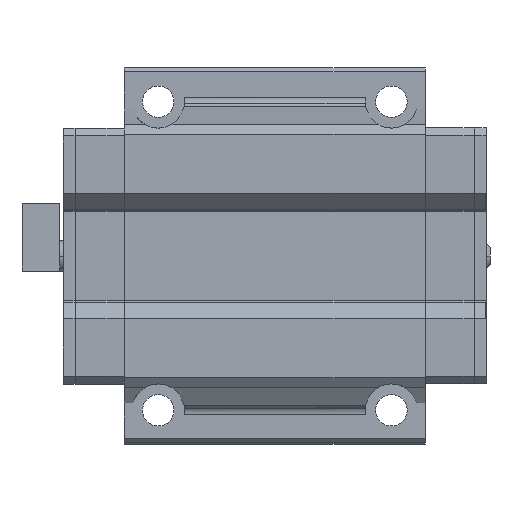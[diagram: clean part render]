
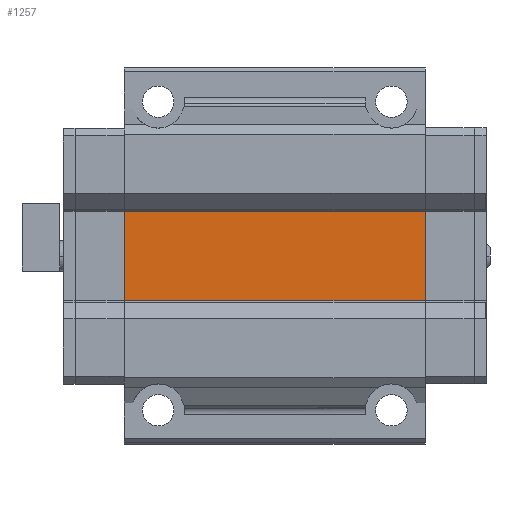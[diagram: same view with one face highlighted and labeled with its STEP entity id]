
A CAD part, front view. The second image highlights one B-rep face of the part: STEP entity #1257.
In plain terms, the highlighted planar face has unit normal (0, -1, 0).
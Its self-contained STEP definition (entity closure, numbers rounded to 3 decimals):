
#142 = VECTOR ( 'NONE', #5375, 1000. ) ;
#443 = VERTEX_POINT ( 'NONE', #914 ) ;
#914 = CARTESIAN_POINT ( 'NONE',  ( -40., 0., -13.251 ) ) ;
#1257 = ADVANCED_FACE ( 'NONE', ( #5903 ), #5845, .T. ) ;
#2060 = DIRECTION ( 'NONE',  ( 0., 0., -1. ) ) ;
#2441 = EDGE_LOOP ( 'NONE', ( #7710, #12507, #9433, #2692 ) ) ;
#2543 = VERTEX_POINT ( 'NONE', #12545 ) ;
#2692 = ORIENTED_EDGE ( 'NONE', *, *, #9747, .F. ) ;
#2798 = LINE ( 'NONE', #5074, #10110 ) ;
#2921 = EDGE_CURVE ( 'NONE', #8087, #7238, #2798, .T. ) ;
#3191 = CARTESIAN_POINT ( 'NONE',  ( 40., 0., -13.251 ) ) ;
#3942 = LINE ( 'NONE', #5200, #4189 ) ;
#4189 = VECTOR ( 'NONE', #9075, 1000. ) ;
#4707 = CARTESIAN_POINT ( 'NONE',  ( 56.2, 0., -13.251 ) ) ;
#5074 = CARTESIAN_POINT ( 'NONE',  ( 40., 0., 6.626 ) ) ;
#5200 = CARTESIAN_POINT ( 'NONE',  ( 56.2, 0., 13.251 ) ) ;
#5375 = DIRECTION ( 'NONE',  ( 0., 0., 1. ) ) ;
#5845 = PLANE ( 'NONE',  #8895 ) ;
#5903 = FACE_OUTER_BOUND ( 'NONE', #2441, .T. ) ;
#6433 = EDGE_CURVE ( 'NONE', #443, #2543, #10032, .T. ) ;
#6722 = LINE ( 'NONE', #4707, #8174 ) ;
#6982 = CARTESIAN_POINT ( 'NONE',  ( -40., 0., 13.251 ) ) ;
#7238 = VERTEX_POINT ( 'NONE', #3191 ) ;
#7606 = DIRECTION ( 'NONE',  ( -1., 0., 0. ) ) ;
#7710 = ORIENTED_EDGE ( 'NONE', *, *, #2921, .F. ) ;
#8087 = VERTEX_POINT ( 'NONE', #11215 ) ;
#8174 = VECTOR ( 'NONE', #7606, 1000. ) ;
#8703 = DIRECTION ( 'NONE',  ( 0., -1., 0. ) ) ;
#8895 = AXIS2_PLACEMENT_3D ( 'NONE', #6982, #8703, #11824 ) ;
#9075 = DIRECTION ( 'NONE',  ( -1., 0., 0. ) ) ;
#9433 = ORIENTED_EDGE ( 'NONE', *, *, #6433, .F. ) ;
#9747 = EDGE_CURVE ( 'NONE', #7238, #443, #6722, .T. ) ;
#10032 = LINE ( 'NONE', #11048, #142 ) ;
#10110 = VECTOR ( 'NONE', #2060, 1000. ) ;
#11048 = CARTESIAN_POINT ( 'NONE',  ( -40., 0., 6.626 ) ) ;
#11100 = EDGE_CURVE ( 'NONE', #8087, #2543, #3942, .T. ) ;
#11215 = CARTESIAN_POINT ( 'NONE',  ( 40., 0., 13.251 ) ) ;
#11824 = DIRECTION ( 'NONE',  ( 0., 0., -1. ) ) ;
#12507 = ORIENTED_EDGE ( 'NONE', *, *, #11100, .T. ) ;
#12545 = CARTESIAN_POINT ( 'NONE',  ( -40., 0., 13.251 ) ) ;
